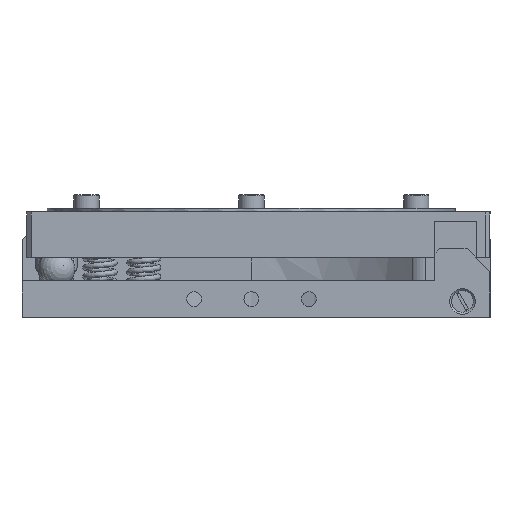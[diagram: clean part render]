
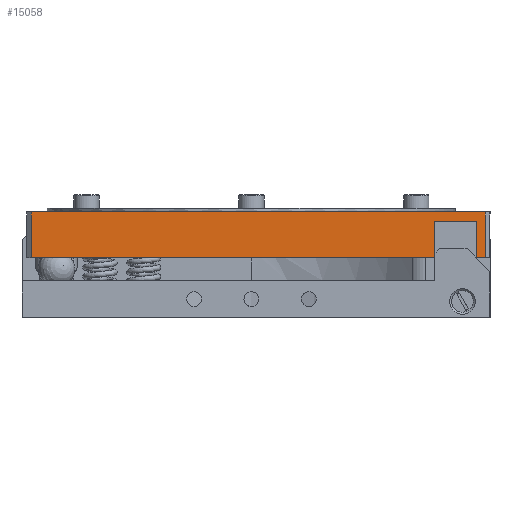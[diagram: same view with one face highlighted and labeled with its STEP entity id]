
A CAD part, front view. The second image highlights one B-rep face of the part: STEP entity #15058.
In plain terms, the highlighted planar face has unit normal (0, -1, 0).
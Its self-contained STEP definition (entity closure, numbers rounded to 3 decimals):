
#1008=PLANE('',#15888);
#1575=FACE_OUTER_BOUND('',#2382,.T.);
#2382=EDGE_LOOP('',(#11272,#11273,#11274,#11275,#11276,#11277,#11278,#11279,
#11280,#11281,#11282,#11283));
#3423=LINE('',#24071,#4659);
#3426=LINE('',#24076,#4662);
#3435=LINE('',#24102,#4671);
#3499=LINE('',#24323,#4735);
#3509=LINE('',#24344,#4745);
#3524=LINE('',#24384,#4760);
#3557=LINE('',#24517,#4793);
#3558=LINE('',#24519,#4794);
#3559=LINE('',#24520,#4795);
#3560=LINE('',#24522,#4796);
#3561=LINE('',#24523,#4797);
#3562=LINE('',#24524,#4798);
#4659=VECTOR('',#17699,10.);
#4662=VECTOR('',#17702,10.);
#4671=VECTOR('',#17723,10.);
#4735=VECTOR('',#17907,10.);
#4745=VECTOR('',#17921,10.);
#4760=VECTOR('',#17960,10.);
#4793=VECTOR('',#18095,10.);
#4794=VECTOR('',#18098,10.);
#4795=VECTOR('',#18099,10.);
#4796=VECTOR('',#18100,10.);
#4797=VECTOR('',#18101,10.);
#4798=VECTOR('',#18102,10.);
#6501=VERTEX_POINT('',#24068);
#6502=VERTEX_POINT('',#24070);
#6503=VERTEX_POINT('',#24073);
#6504=VERTEX_POINT('',#24075);
#6514=VERTEX_POINT('',#24099);
#6515=VERTEX_POINT('',#24101);
#6604=VERTEX_POINT('',#24320);
#6612=VERTEX_POINT('',#24341);
#6613=VERTEX_POINT('',#24343);
#6626=VERTEX_POINT('',#24382);
#6657=VERTEX_POINT('',#24515);
#6658=VERTEX_POINT('',#24521);
#8205=EDGE_CURVE('',#6502,#6501,#3423,.T.);
#8208=EDGE_CURVE('',#6504,#6503,#3426,.T.);
#8221=EDGE_CURVE('',#6514,#6515,#3435,.T.);
#8329=EDGE_CURVE('',#6604,#6515,#3499,.T.);
#8339=EDGE_CURVE('',#6612,#6613,#3509,.T.);
#8360=EDGE_CURVE('',#6503,#6626,#3524,.T.);
#8424=EDGE_CURVE('',#6657,#6612,#3557,.T.);
#8425=EDGE_CURVE('',#6626,#6613,#3558,.T.);
#8426=EDGE_CURVE('',#6657,#6604,#3559,.T.);
#8427=EDGE_CURVE('',#6514,#6658,#3560,.T.);
#8428=EDGE_CURVE('',#6658,#6502,#3561,.T.);
#8429=EDGE_CURVE('',#6501,#6504,#3562,.T.);
#11272=ORIENTED_EDGE('',*,*,#8360,.T.);
#11273=ORIENTED_EDGE('',*,*,#8425,.T.);
#11274=ORIENTED_EDGE('',*,*,#8339,.F.);
#11275=ORIENTED_EDGE('',*,*,#8424,.F.);
#11276=ORIENTED_EDGE('',*,*,#8426,.T.);
#11277=ORIENTED_EDGE('',*,*,#8329,.T.);
#11278=ORIENTED_EDGE('',*,*,#8221,.F.);
#11279=ORIENTED_EDGE('',*,*,#8427,.T.);
#11280=ORIENTED_EDGE('',*,*,#8428,.T.);
#11281=ORIENTED_EDGE('',*,*,#8205,.T.);
#11282=ORIENTED_EDGE('',*,*,#8429,.T.);
#11283=ORIENTED_EDGE('',*,*,#8208,.T.);
#15058=ADVANCED_FACE('',(#1575),#1008,.T.);
#15888=AXIS2_PLACEMENT_3D('',#24518,#18096,#18097);
#17699=DIRECTION('',(1.,0.,0.));
#17702=DIRECTION('',(1.,0.,0.));
#17723=DIRECTION('',(-1.,0.,0.));
#17907=DIRECTION('',(0.,0.,-1.));
#17921=DIRECTION('',(-1.,0.,0.));
#17960=DIRECTION('',(0.,0.,-1.));
#18095=DIRECTION('',(0.,0.,-1.));
#18096=DIRECTION('center_axis',(0.,-1.,0.));
#18097=DIRECTION('ref_axis',(0.,0.,
-1.));
#18098=DIRECTION('',(0.,0.,-1.));
#18099=DIRECTION('',(-1.,0.,0.));
#18100=DIRECTION('',(0.,0.,1.));
#18101=DIRECTION('',(0.,0.,1.));
#18102=DIRECTION('',(1.,0.,0.));
#24068=CARTESIAN_POINT('',(-72.562,9.154,-21.397));
#24070=CARTESIAN_POINT('',(-72.862,9.154,-21.397));
#24071=CARTESIAN_POINT('',(-62.362,9.154,-21.397));
#24073=CARTESIAN_POINT('',(-63.862,9.154,-21.397));
#24075=CARTESIAN_POINT('',(-64.162,9.154,-21.397));
#24076=CARTESIAN_POINT('',(-62.362,9.154,-21.397));
#24099=CARTESIAN_POINT('',(-72.862,9.154,-29.397));
#24101=CARTESIAN_POINT('',(-160.862,9.154,-29.397));
#24102=CARTESIAN_POINT('',(-60.862,9.154,-29.397));
#24320=CARTESIAN_POINT('',(-160.862,9.154,-19.397));
#24323=CARTESIAN_POINT('',(-160.862,9.154,-29.397));
#24341=CARTESIAN_POINT('',(-61.862,9.154,-29.397));
#24343=CARTESIAN_POINT('',(-63.862,9.154,-29.397));
#24344=CARTESIAN_POINT('',(-60.862,9.154,-29.397));
#24382=CARTESIAN_POINT('',(-63.862,9.154,-21.697));
#24384=CARTESIAN_POINT('',(-63.862,9.154,-34.482));
#24515=CARTESIAN_POINT('',(-61.862,9.154,-19.397));
#24517=CARTESIAN_POINT('',(-61.862,9.154,-29.397));
#24518=CARTESIAN_POINT('Origin',(-60.862,9.154,-29.397));
#24519=CARTESIAN_POINT('',(-63.862,9.154,-34.482));
#24520=CARTESIAN_POINT('',(-60.862,9.154,-19.397));
#24521=CARTESIAN_POINT('',(-72.862,9.154,-21.697));
#24522=CARTESIAN_POINT('',(-72.862,9.154,-25.397));
#24523=CARTESIAN_POINT('',(-72.862,9.154,-25.397));
#24524=CARTESIAN_POINT('',(-62.362,9.154,-21.397));
